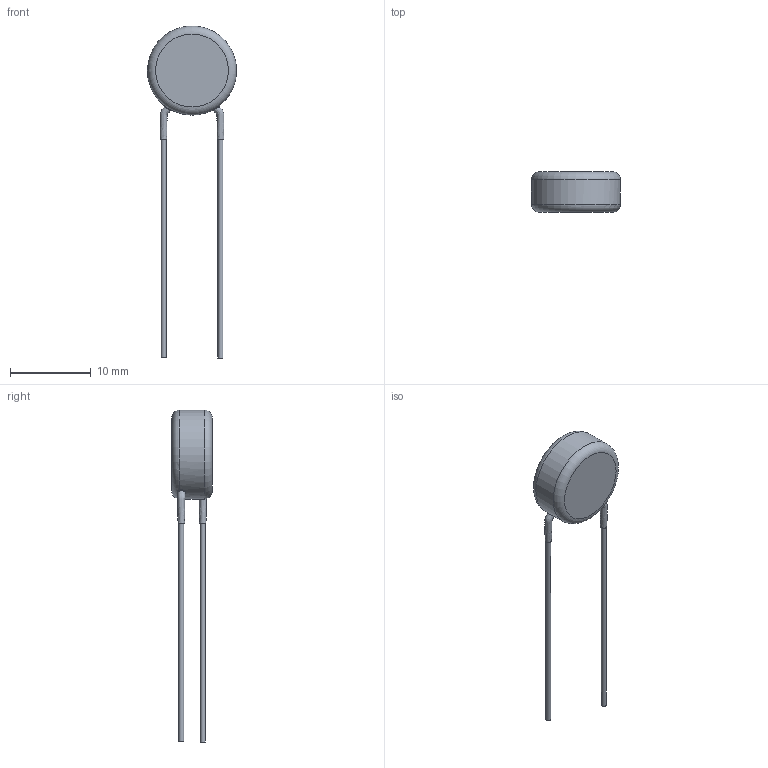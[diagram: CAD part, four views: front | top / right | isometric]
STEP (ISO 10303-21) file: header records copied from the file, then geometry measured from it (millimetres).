
FILE_DESCRIPTION(/* description */ (''),/* implementation_level */ '2;1');
FILE_NAME(/* name */ 'I:\Marketing\M6t1\3D-Models\Zchng-Werk-3\Upload for homepage\BCC neu\AY2 Straight\Step\AY2332#41Y5US63L7.stp',/* time_stamp */ '2023-07-13T14:08:39+02:00',/* author */ ('truediger'),/* organization */ (''),/* preprocessor_version */ 'ST-DEVELOPER v18',/* originating_system */ 'Autodesk Inventor 2020',/* authorisation */ '');
FILE_SCHEMA (('AUTOMOTIVE_DESIGN { 1 0 10303 214 3 1 1 }'));
Length unit declared in the file: millimetre
Products named in the file (1): Bauteil2
Bounding box: 11 x 5 x 41 mm (x, y, z)
Volume: 480.9 mm3; surface area: 455.4 mm2
Topology: 1 solids, 1 shells, 19 faces, 43 edges, 28 vertices
Faces by surface type: bspline 8, plane 6, cylinder 3, torus 2
Full cylindrical faces by diameter (mm): 0.6 x2, 11 x1
Entity records: 1706 total; most frequent: CARTESIAN_POINT 1245, ORIENTED_EDGE 86, DIRECTION 75, EDGE_CURVE 43, AXIS2_PLACEMENT_3D 36, VERTEX_POINT 28, CIRCLE 24, EDGE_LOOP 21
